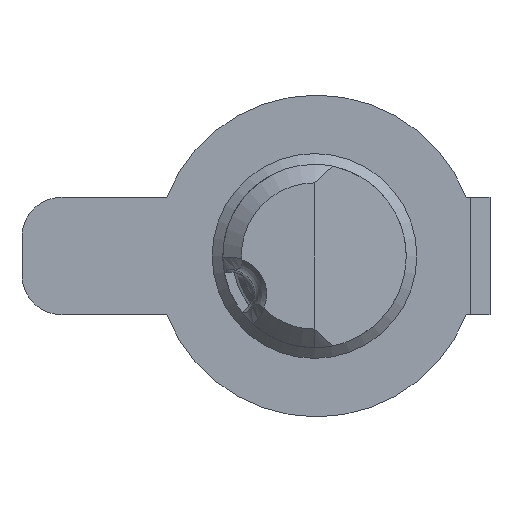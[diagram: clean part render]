
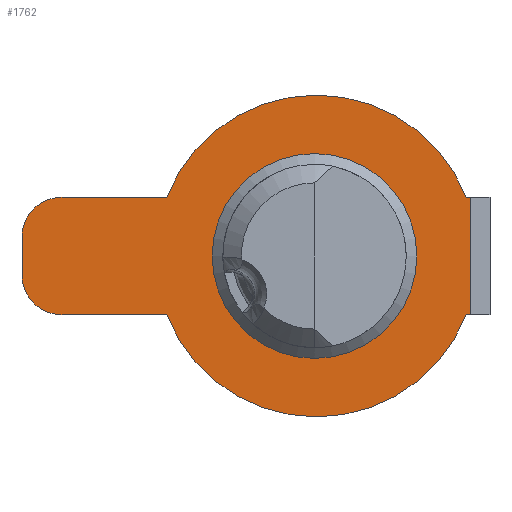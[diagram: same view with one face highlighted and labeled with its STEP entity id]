
A CAD part, left-side view. The second image highlights one B-rep face of the part: STEP entity #1762.
In plain terms, the highlighted planar face has unit normal (-1, 0, 0).
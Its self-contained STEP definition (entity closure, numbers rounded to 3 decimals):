
#90=CARTESIAN_POINT('',(25.8,506.,-33.));
#91=VERTEX_POINT('',#90);
#131=CARTESIAN_POINT('',(25.8,506.215,-33.));
#132=VERTEX_POINT('',#131);
#139=CARTESIAN_POINT('',(25.8,506.215,-33.));
#140=DIRECTION('',(-0.,-1.,-0.));
#141=VECTOR('',#140,0.215);
#142=LINE('',#139,#141);
#143=EDGE_CURVE('',#132,#91,#142,.T.);
#1064=CARTESIAN_POINT('',(25.8,514.,-41.25));
#1065=VERTEX_POINT('',#1064);
#1082=CARTESIAN_POINT('',(25.8,514.,-36.));
#1083=DIRECTION('',(-1.,-0.,-0.));
#1084=DIRECTION('',(0.,0.,-1.));
#1085=AXIS2_PLACEMENT_3D('',#1082,#1083,#1084);
#1086=CIRCLE('',#1085,5.25);
#1087=EDGE_CURVE('',#1065,#1065,#1086,.T.);
#1452=CARTESIAN_POINT('',(25.8,527.,-33.));
#1453=VERTEX_POINT('',#1452);
#1468=CARTESIAN_POINT('',(25.8,529.,-35.));
#1469=VERTEX_POINT('',#1468);
#1476=CARTESIAN_POINT('',(25.8,527.,-35.));
#1477=DIRECTION('',(-1.,0.,0.));
#1478=DIRECTION('',(0.,0.,1.));
#1479=AXIS2_PLACEMENT_3D('',#1476,#1477,#1478);
#1480=CIRCLE('',#1479,2.);
#1481=EDGE_CURVE('',#1453,#1469,#1480,.T.);
#1521=CARTESIAN_POINT('',(25.8,521.585,-33.));
#1522=VERTEX_POINT('',#1521);
#1523=CARTESIAN_POINT('',(25.8,527.,-33.));
#1524=DIRECTION('',(-0.,-1.,-0.));
#1525=VECTOR('',#1524,5.415);
#1526=LINE('',#1523,#1525);
#1527=EDGE_CURVE('',#1453,#1522,#1526,.T.);
#1544=CARTESIAN_POINT('',(25.8,513.9,-27.75));
#1545=VERTEX_POINT('',#1544);
#1554=CARTESIAN_POINT('',(25.8,513.9,-36.));
#1555=DIRECTION('',(1.,-0.,-0.));
#1556=DIRECTION('',(0.,0.,1.));
#1557=AXIS2_PLACEMENT_3D('',#1554,#1555,#1556);
#1558=CIRCLE('',#1557,8.25);
#1559=EDGE_CURVE('',#1522,#1545,#1558,.T.);
#1570=CARTESIAN_POINT('',(25.8,506.,-39.));
#1571=VERTEX_POINT('',#1570);
#1578=CARTESIAN_POINT('',(25.8,506.215,-39.));
#1579=VERTEX_POINT('',#1578);
#1580=CARTESIAN_POINT('',(25.8,506.,-39.));
#1581=DIRECTION('',(0.,1.,0.));
#1582=VECTOR('',#1581,0.215);
#1583=LINE('',#1580,#1582);
#1584=EDGE_CURVE('',#1571,#1579,#1583,.T.);
#1608=CARTESIAN_POINT('',(25.8,521.585,-39.));
#1609=VERTEX_POINT('',#1608);
#1618=CARTESIAN_POINT('',(25.8,513.9,-36.));
#1619=DIRECTION('',(1.,-0.,-0.));
#1620=DIRECTION('',(0.,0.,1.));
#1621=AXIS2_PLACEMENT_3D('',#1618,#1619,#1620);
#1622=CIRCLE('',#1621,8.25);
#1623=EDGE_CURVE('',#1579,#1609,#1622,.T.);
#1664=CARTESIAN_POINT('',(25.8,527.,-39.));
#1665=VERTEX_POINT('',#1664);
#1666=CARTESIAN_POINT('',(25.8,521.585,-39.));
#1667=DIRECTION('',(0.,1.,0.));
#1668=VECTOR('',#1667,5.415);
#1669=LINE('',#1666,#1668);
#1670=EDGE_CURVE('',#1609,#1665,#1669,.T.);
#1686=CARTESIAN_POINT('',(25.8,529.,-37.));
#1687=VERTEX_POINT('',#1686);
#1703=CARTESIAN_POINT('',(25.8,527.,-37.));
#1704=DIRECTION('',(-1.,0.,0.));
#1705=DIRECTION('',(0.,0.,1.));
#1706=AXIS2_PLACEMENT_3D('',#1703,#1704,#1705);
#1707=CIRCLE('',#1706,2.);
#1708=EDGE_CURVE('',#1687,#1665,#1707,.T.);
#1721=CARTESIAN_POINT('',(25.8,529.,-37.));
#1722=DIRECTION('',(-0.,-0.,1.));
#1723=VECTOR('',#1722,2.);
#1724=LINE('',#1721,#1723);
#1725=EDGE_CURVE('',#1687,#1469,#1724,.T.);
#1730=CARTESIAN_POINT('',(25.8,0.,0.));
#1731=DIRECTION('',(1.,0.,0.));
#1732=DIRECTION('',(0.,1.,0.));
#1733=AXIS2_PLACEMENT_3D('',#1730,#1731,#1732);
#1734=PLANE('',#1733);
#1735=ORIENTED_EDGE('',*,*,#1087,.F.);
#1736=EDGE_LOOP('',(#1735));
#1737=FACE_BOUND('',#1736,.T.);
#1738=ORIENTED_EDGE('',*,*,#1584,.F.);
#1739=CARTESIAN_POINT('',(25.8,506.,-39.));
#1740=DIRECTION('',(0.,0.,1.));
#1741=VECTOR('',#1740,6.);
#1742=LINE('',#1739,#1741);
#1743=EDGE_CURVE('',#1571,#91,#1742,.T.);
#1744=ORIENTED_EDGE('',*,*,#1743,.T.);
#1745=ORIENTED_EDGE('',*,*,#143,.F.);
#1746=CARTESIAN_POINT('',(25.8,513.9,-36.));
#1747=DIRECTION('',(1.,-0.,-0.));
#1748=DIRECTION('',(0.,0.,1.));
#1749=AXIS2_PLACEMENT_3D('',#1746,#1747,#1748);
#1750=CIRCLE('',#1749,8.25);
#1751=EDGE_CURVE('',#1545,#132,#1750,.T.);
#1752=ORIENTED_EDGE('',*,*,#1751,.F.);
#1753=ORIENTED_EDGE('',*,*,#1559,.F.);
#1754=ORIENTED_EDGE('',*,*,#1527,.F.);
#1755=ORIENTED_EDGE('',*,*,#1481,.T.);
#1756=ORIENTED_EDGE('',*,*,#1725,.F.);
#1757=ORIENTED_EDGE('',*,*,#1708,.T.);
#1758=ORIENTED_EDGE('',*,*,#1670,.F.);
#1759=ORIENTED_EDGE('',*,*,#1623,.F.);
#1760=EDGE_LOOP('',(#1738,#1744,#1745,#1752,#1753,#1754,#1755,#1756,#1757,#1758,#1759));
#1761=FACE_BOUND('',#1760,.T.);
#1762=ADVANCED_FACE('',(#1737,#1761),#1734,.F.);
